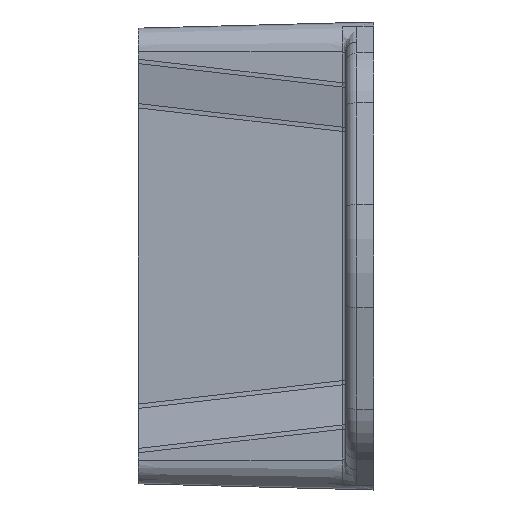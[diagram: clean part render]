
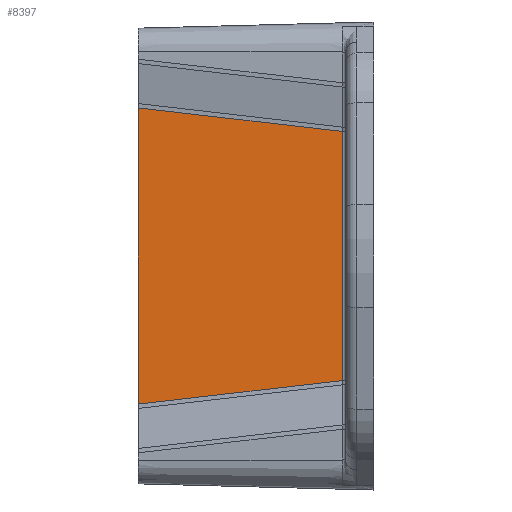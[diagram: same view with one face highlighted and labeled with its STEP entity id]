
A CAD part, left-side view. The second image highlights one B-rep face of the part: STEP entity #8397.
In plain terms, the highlighted planar face has unit normal (-1, 0.026, 0).
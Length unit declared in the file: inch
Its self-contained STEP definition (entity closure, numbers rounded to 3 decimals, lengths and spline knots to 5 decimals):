
#44 = CARTESIAN_POINT ( 'NONE',  ( -1.05159, -0.91978, -0.56169 ) ) ;
#944 = EDGE_LOOP ( 'NONE', ( #3574, #1669, #3277, #6883 ) ) ;
#951 = CARTESIAN_POINT ( 'NONE',  ( -1.0275, 0., -0.66767 ) ) ;
#1669 = ORIENTED_EDGE ( 'NONE', *, *, #3451, .T. ) ;
#2929 = CARTESIAN_POINT ( 'NONE',  ( -1.0275, 0., -0.6775 ) ) ;
#3277 = ORIENTED_EDGE ( 'NONE', *, *, #3504, .T. ) ;
#3398 = EDGE_CURVE ( 'NONE', #7026, #4544, #4772, .T. ) ;
#3426 = LINE ( 'NONE', #8357, #7650 ) ;
#3451 = EDGE_CURVE ( 'NONE', #4544, #5110, #7248, .T. ) ;
#3504 = EDGE_CURVE ( 'NONE', #5110, #4984, #3426, .T. ) ;
#3524 = EDGE_CURVE ( 'NONE', #7026, #4984, #8807, .T. ) ;
#3571 = DIRECTION ( 'NONE',  ( -0.026, -1., 0. ) ) ;
#3574 = ORIENTED_EDGE ( 'NONE', *, *, #3398, .T. ) ;
#4061 = VECTOR ( 'NONE', #8429, 39.37008 ) ;
#4427 = VECTOR ( 'NONE', #8173, 39.37008 ) ;
#4544 = VERTEX_POINT ( 'NONE', #44 ) ;
#4772 = LINE ( 'NONE', #8493, #4061 ) ;
#4984 = VERTEX_POINT ( 'NONE', #7599 ) ;
#5110 = VERTEX_POINT ( 'NONE', #6654 ) ;
#5277 = VECTOR ( 'NONE', #8403, 39.37008 ) ;
#5665 = FACE_OUTER_BOUND ( 'NONE', #944, .T. ) ;
#6455 = DIRECTION ( 'NONE',  ( -1., 0.026, 0. ) ) ;
#6654 = CARTESIAN_POINT ( 'NONE',  ( -1.05159, -0.91978, 0.56169 ) ) ;
#6883 = ORIENTED_EDGE ( 'NONE', *, *, #3524, .F. ) ;
#7026 = VERTEX_POINT ( 'NONE', #951 ) ;
#7051 = PLANE ( 'NONE',  #8358 ) ;
#7248 = LINE ( 'NONE', #8380, #5277 ) ;
#7599 = CARTESIAN_POINT ( 'NONE',  ( -1.0275, 0., 0.66767 ) ) ;
#7650 = VECTOR ( 'NONE', #8315, 39.37008 ) ;
#8173 = DIRECTION ( 'NONE',  ( 0., 0., 1. ) ) ;
#8315 = DIRECTION ( 'NONE',  ( 0.026, 0.993, 0.114 ) ) ;
#8351 = CARTESIAN_POINT ( 'NONE',  ( -1.0275, 0., -0.6775 ) ) ;
#8357 = CARTESIAN_POINT ( 'NONE',  ( -1.02747, 0.00112, 0.6678 ) ) ;
#8358 = AXIS2_PLACEMENT_3D ( 'NONE', #2929, #6455, #3571 ) ;
#8380 = CARTESIAN_POINT ( 'NONE',  ( -1.05159, -0.91978, -0.6775 ) ) ;
#8397 = ADVANCED_FACE ( 'NONE', ( #5665 ), #7051, .T. ) ;
#8403 = DIRECTION ( 'NONE',  ( 0., 0., 1. ) ) ;
#8429 = DIRECTION ( 'NONE',  ( -0.026, -0.993, 0.114 ) ) ;
#8493 = CARTESIAN_POINT ( 'NONE',  ( -1.05195, -0.93388, -0.56006 ) ) ;
#8807 = LINE ( 'NONE', #8351, #4427 ) ;
